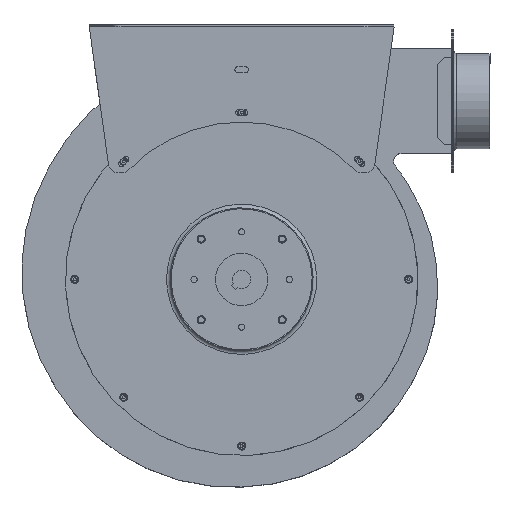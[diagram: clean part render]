
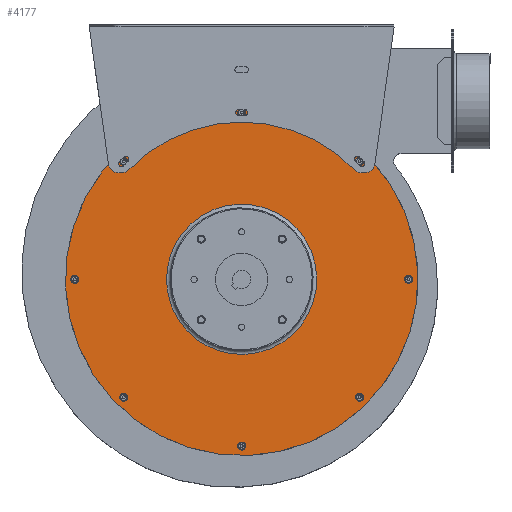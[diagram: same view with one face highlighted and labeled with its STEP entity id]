
A CAD part, top view. The second image highlights one B-rep face of the part: STEP entity #4177.
In plain terms, the highlighted planar face has unit normal (0, 0, 1).
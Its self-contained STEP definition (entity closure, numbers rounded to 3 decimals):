
#146=CIRCLE('',#4591,185.);
#156=CIRCLE('',#4603,78.8);
#157=CIRCLE('',#4604,4.25);
#158=CIRCLE('',#4605,4.25);
#159=CIRCLE('',#4606,4.25);
#160=CIRCLE('',#4607,4.25);
#161=CIRCLE('',#4608,4.25);
#162=CIRCLE('',#4609,4.25);
#163=CIRCLE('',#4610,4.25);
#164=CIRCLE('',#4611,4.25);
#692=ORIENTED_EDGE('',*,*,#1699,.T.);
#693=ORIENTED_EDGE('',*,*,#1700,.F.);
#694=ORIENTED_EDGE('',*,*,#1701,.F.);
#695=ORIENTED_EDGE('',*,*,#1702,.F.);
#696=ORIENTED_EDGE('',*,*,#1703,.F.);
#697=ORIENTED_EDGE('',*,*,#1704,.F.);
#698=ORIENTED_EDGE('',*,*,#1705,.F.);
#699=ORIENTED_EDGE('',*,*,#1706,.F.);
#700=ORIENTED_EDGE('',*,*,#1707,.F.);
#701=ORIENTED_EDGE('',*,*,#1689,.T.);
#1689=EDGE_CURVE('',#2223,#2223,#146,.T.);
#1699=EDGE_CURVE('',#2233,#2233,#156,.F.);
#1700=EDGE_CURVE('',#2234,#2234,#157,.T.);
#1701=EDGE_CURVE('',#2235,#2235,#158,.T.);
#1702=EDGE_CURVE('',#2236,#2236,#159,.T.);
#1703=EDGE_CURVE('',#2237,#2237,#160,.T.);
#1704=EDGE_CURVE('',#2238,#2238,#161,.T.);
#1705=EDGE_CURVE('',#2239,#2239,#162,.T.);
#1706=EDGE_CURVE('',#2240,#2240,#163,.T.);
#1707=EDGE_CURVE('',#2241,#2241,#164,.T.);
#2223=VERTEX_POINT('',#6587);
#2233=VERTEX_POINT('',#6609);
#2234=VERTEX_POINT('',#6611);
#2235=VERTEX_POINT('',#6613);
#2236=VERTEX_POINT('',#6615);
#2237=VERTEX_POINT('',#6617);
#2238=VERTEX_POINT('',#6619);
#2239=VERTEX_POINT('',#6621);
#2240=VERTEX_POINT('',#6623);
#2241=VERTEX_POINT('',#6625);
#3231=EDGE_LOOP('',(#692));
#3232=EDGE_LOOP('',(#693));
#3233=EDGE_LOOP('',(#694));
#3234=EDGE_LOOP('',(#695));
#3235=EDGE_LOOP('',(#696));
#3236=EDGE_LOOP('',(#697));
#3237=EDGE_LOOP('',(#698));
#3238=EDGE_LOOP('',(#699));
#3239=EDGE_LOOP('',(#700));
#3240=EDGE_LOOP('',(#701));
#3678=FACE_BOUND('',#3231,.T.);
#3679=FACE_BOUND('',#3232,.T.);
#3680=FACE_BOUND('',#3233,.T.);
#3681=FACE_BOUND('',#3234,.T.);
#3682=FACE_BOUND('',#3235,.T.);
#3683=FACE_BOUND('',#3236,.T.);
#3684=FACE_BOUND('',#3237,.T.);
#3685=FACE_BOUND('',#3238,.T.);
#3686=FACE_BOUND('',#3239,.T.);
#3687=FACE_BOUND('',#3240,.T.);
#4029=PLANE('',#4602);
#4177=ADVANCED_FACE('',(#3678,#3679,#3680,#3681,#3682,#3683,#3684,#3685,
#3686,#3687),#4029,.T.);
#4591=AXIS2_PLACEMENT_3D('',#6586,#5282,#5283);
#4602=AXIS2_PLACEMENT_3D('',#6607,#5304,#5305);
#4603=AXIS2_PLACEMENT_3D('',#6608,#5306,#5307);
#4604=AXIS2_PLACEMENT_3D('',#6610,#5308,#5309);
#4605=AXIS2_PLACEMENT_3D('',#6612,#5310,#5311);
#4606=AXIS2_PLACEMENT_3D('',#6614,#5312,#5313);
#4607=AXIS2_PLACEMENT_3D('',#6616,#5314,#5315);
#4608=AXIS2_PLACEMENT_3D('',#6618,#5316,#5317);
#4609=AXIS2_PLACEMENT_3D('',#6620,#5318,#5319);
#4610=AXIS2_PLACEMENT_3D('',#6622,#5320,#5321);
#4611=AXIS2_PLACEMENT_3D('',#6624,#5322,#5323);
#5282=DIRECTION('',(0.,0.,1.));
#5283=DIRECTION('',(1.,0.,0.));
#5304=DIRECTION('',(0.,0.,1.));
#5305=DIRECTION('',(1.,0.,0.));
#5306=DIRECTION('',(0.,0.,1.));
#5307=DIRECTION('',(1.,0.,0.));
#5308=DIRECTION('',(0.,0.,1.));
#5309=DIRECTION('',(1.,0.,0.));
#5310=DIRECTION('',(0.,0.,1.));
#5311=DIRECTION('',(1.,0.,0.));
#5312=DIRECTION('',(0.,0.,1.));
#5313=DIRECTION('',(1.,0.,0.));
#5314=DIRECTION('',(0.,0.,1.));
#5315=DIRECTION('',(1.,0.,0.));
#5316=DIRECTION('',(0.,0.,1.));
#5317=DIRECTION('',(1.,0.,0.));
#5318=DIRECTION('',(0.,0.,1.));
#5319=DIRECTION('',(1.,0.,0.));
#5320=DIRECTION('',(0.,0.,1.));
#5321=DIRECTION('',(1.,0.,0.));
#5322=DIRECTION('',(0.,0.,1.));
#5323=DIRECTION('',(1.,0.,0.));
#6586=CARTESIAN_POINT('',(0.,0.,0.));
#6587=CARTESIAN_POINT('',(185.,0.,0.));
#6607=CARTESIAN_POINT('',(0.,0.,0.));
#6608=CARTESIAN_POINT('',(0.,0.,0.));
#6609=CARTESIAN_POINT('',(78.8,0.,0.));
#6610=CARTESIAN_POINT('',(-161.679,-66.97,0.));
#6611=CARTESIAN_POINT('',(-157.429,-66.97,0.));
#6612=CARTESIAN_POINT('',(-66.97,-161.679,0.));
#6613=CARTESIAN_POINT('',(-62.72,-161.679,0.));
#6614=CARTESIAN_POINT('',(66.97,-161.679,0.));
#6615=CARTESIAN_POINT('',(71.22,-161.679,0.));
#6616=CARTESIAN_POINT('',(161.679,-66.97,0.));
#6617=CARTESIAN_POINT('',(165.929,-66.97,0.));
#6618=CARTESIAN_POINT('',(161.679,66.97,0.));
#6619=CARTESIAN_POINT('',(165.929,66.97,0.));
#6620=CARTESIAN_POINT('',(-161.679,66.97,0.));
#6621=CARTESIAN_POINT('',(-157.429,66.97,0.));
#6622=CARTESIAN_POINT('',(66.97,161.679,0.));
#6623=CARTESIAN_POINT('',(71.22,161.679,0.));
#6624=CARTESIAN_POINT('',(-66.97,161.679,0.));
#6625=CARTESIAN_POINT('',(-62.72,161.679,0.));
